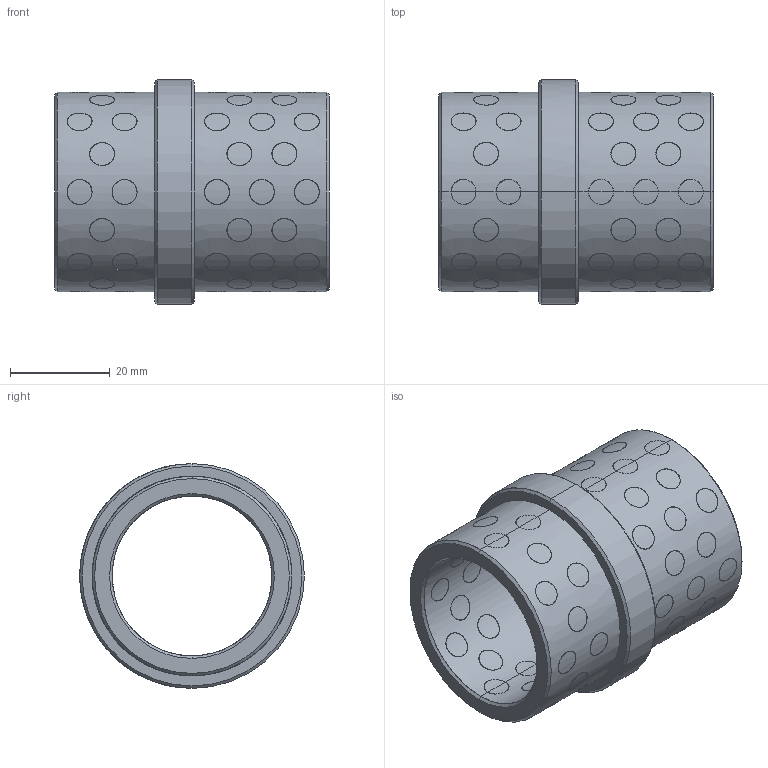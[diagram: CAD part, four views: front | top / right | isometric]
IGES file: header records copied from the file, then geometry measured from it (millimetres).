
Start section: START RECORD GO HERE.
Global section: file name: G4023235.igs; native system: DASSAULT SYSTEMES CATIA V5 R20 - www.3ds.com; preprocessor: CATIA Version 5 Release 20 ; author: r.borello; organization: CFTORINO; date: 20190624.143749; units: millimetre
Bounding box: 55 x 45 x 45 mm (x, y, z)
Surface area: 21913.8 mm2 (no closed solid volume)
Topology: 0 solids, 0 shells, 428 faces, 1872 edges, 1872 vertices
Faces by surface type: revolution 424, plane 4
